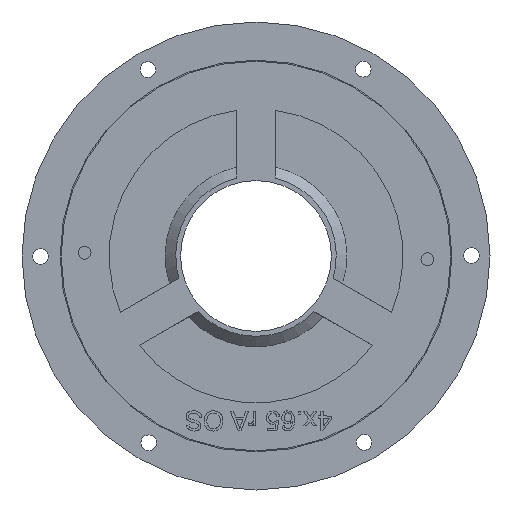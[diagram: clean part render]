
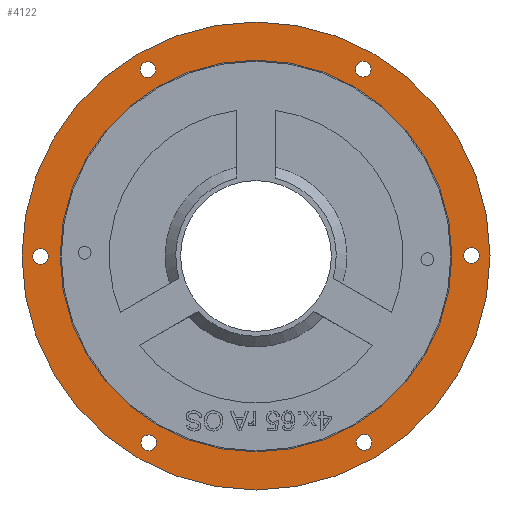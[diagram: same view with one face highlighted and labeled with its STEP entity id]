
A CAD part, front view. The second image highlights one B-rep face of the part: STEP entity #4122.
In plain terms, the highlighted planar face has unit normal (0, -1, 0).
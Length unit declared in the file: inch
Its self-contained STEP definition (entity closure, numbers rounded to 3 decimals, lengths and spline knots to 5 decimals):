
#50=FACE_BOUND('',#924,.T.);
#51=FACE_BOUND('',#925,.T.);
#52=FACE_BOUND('',#926,.T.);
#53=FACE_BOUND('',#927,.T.);
#54=FACE_BOUND('',#928,.T.);
#55=FACE_BOUND('',#929,.T.);
#56=FACE_BOUND('',#930,.T.);
#419=CIRCLE('',#4244,0.08);
#430=CIRCLE('',#4259,0.08);
#433=CIRCLE('',#4265,0.08);
#436=CIRCLE('',#4271,0.08);
#439=CIRCLE('',#4277,0.08);
#442=CIRCLE('',#4283,0.08);
#444=CIRCLE('',#4288,2.39);
#445=CIRCLE('',#4289,2.);
#668=FACE_OUTER_BOUND('',#923,.T.);
#923=EDGE_LOOP('',(#3775));
#924=EDGE_LOOP('',(#3776));
#925=EDGE_LOOP('',(#3777));
#926=EDGE_LOOP('',(#3778));
#927=EDGE_LOOP('',(#3779));
#928=EDGE_LOOP('',(#3780));
#929=EDGE_LOOP('',(#3781));
#930=EDGE_LOOP('',(#3782));
#1970=VERTEX_POINT('',#7947);
#1981=VERTEX_POINT('',#7975);
#1984=VERTEX_POINT('',#7986);
#1987=VERTEX_POINT('',#7997);
#1990=VERTEX_POINT('',#8008);
#1993=VERTEX_POINT('',#8019);
#1995=VERTEX_POINT('',#8028);
#1996=VERTEX_POINT('',#8030);
#2559=EDGE_CURVE('',#1970,#1970,#419,.T.);
#2572=EDGE_CURVE('',#1981,#1981,#430,.T.);
#2577=EDGE_CURVE('',#1984,#1984,#433,.T.);
#2582=EDGE_CURVE('',#1987,#1987,#436,.T.);
#2587=EDGE_CURVE('',#1990,#1990,#439,.T.);
#2592=EDGE_CURVE('',#1993,#1993,#442,.T.);
#2595=EDGE_CURVE('',#1995,#1995,#444,.T.);
#2596=EDGE_CURVE('',#1996,#1996,#445,.T.);
#3775=ORIENTED_EDGE('',*,*,#2595,.F.);
#3776=ORIENTED_EDGE('',*,*,#2559,.T.);
#3777=ORIENTED_EDGE('',*,*,#2572,.T.);
#3778=ORIENTED_EDGE('',*,*,#2577,.T.);
#3779=ORIENTED_EDGE('',*,*,#2582,.T.);
#3780=ORIENTED_EDGE('',*,*,#2587,.T.);
#3781=ORIENTED_EDGE('',*,*,#2592,.T.);
#3782=ORIENTED_EDGE('',*,*,#2596,.F.);
#3904=PLANE('',#4287);
#4122=ADVANCED_FACE('',(#668,#50,#51,#52,#53,#54,#55,#56),#3904,.T.);
#4244=AXIS2_PLACEMENT_3D('',#7949,#4832,#4833);
#4259=AXIS2_PLACEMENT_3D('',#7977,#4864,#4865);
#4265=AXIS2_PLACEMENT_3D('',#7988,#4878,#4879);
#4271=AXIS2_PLACEMENT_3D('',#7999,#4892,#4893);
#4277=AXIS2_PLACEMENT_3D('',#8010,#4906,#4907);
#4283=AXIS2_PLACEMENT_3D('',#8021,#4920,#4921);
#4287=AXIS2_PLACEMENT_3D('',#8027,#4929,#4930);
#4288=AXIS2_PLACEMENT_3D('',#8029,#4931,#4932);
#4289=AXIS2_PLACEMENT_3D('',#8031,#4933,#4934);
#4832=DIRECTION('center_axis',(0.,1.,0.));
#4833=DIRECTION('ref_axis',(0.5,0.,0.866));
#4864=DIRECTION('center_axis',(0.,1.,0.));
#4865=DIRECTION('ref_axis',(-0.5,0.,0.866));
#4878=DIRECTION('center_axis',(0.,1.,0.));
#4879=DIRECTION('ref_axis',(-1.,0.,0.));
#4892=DIRECTION('center_axis',(0.,1.,0.));
#4893=DIRECTION('ref_axis',(-0.5,0.,-0.866));
#4906=DIRECTION('center_axis',(0.,1.,0.));
#4907=DIRECTION('ref_axis',(0.5,0.,-0.866));
#4920=DIRECTION('center_axis',(0.,1.,0.));
#4921=DIRECTION('ref_axis',(1.,0.,0.));
#4929=DIRECTION('center_axis',(0.,-1.,0.));
#4930=DIRECTION('ref_axis',(0.,0.,-1.));
#4931=DIRECTION('center_axis',(0.,1.,0.));
#4932=DIRECTION('ref_axis',(-1.,0.,0.));
#4933=DIRECTION('center_axis',(0.,-1.,0.));
#4934=DIRECTION('ref_axis',(1.,0.,0.));
#7947=CARTESIAN_POINT('',(-1.13573,0.4,-1.977));
#7949=CARTESIAN_POINT('Origin',(-1.09573,0.4,-1.90772));
#7975=CARTESIAN_POINT('',(1.14427,0.4,-1.97207));
#7977=CARTESIAN_POINT('Origin',(1.10427,0.4,-1.90279));
#7986=CARTESIAN_POINT('',(2.27999,0.4,0.00493));
#7988=CARTESIAN_POINT('Origin',(2.19999,0.4,0.00493));
#7997=CARTESIAN_POINT('',(1.13573,0.4,1.977));
#7999=CARTESIAN_POINT('Origin',(1.09573,0.4,1.90772));
#8008=CARTESIAN_POINT('',(-1.14427,0.4,1.97207));
#8010=CARTESIAN_POINT('Origin',(-1.10427,0.4,1.90279));
#8019=CARTESIAN_POINT('',(-2.27999,0.4,-0.00493));
#8021=CARTESIAN_POINT('Origin',(-2.19999,0.4,-0.00493));
#8027=CARTESIAN_POINT('Origin',(-2.39,0.4,0.));
#8028=CARTESIAN_POINT('',(2.39,0.4,0.));
#8029=CARTESIAN_POINT('Origin',(0.,0.4,0.));
#8030=CARTESIAN_POINT('',(-2.,0.4,0.));
#8031=CARTESIAN_POINT('Origin',(0.,0.4,0.));
